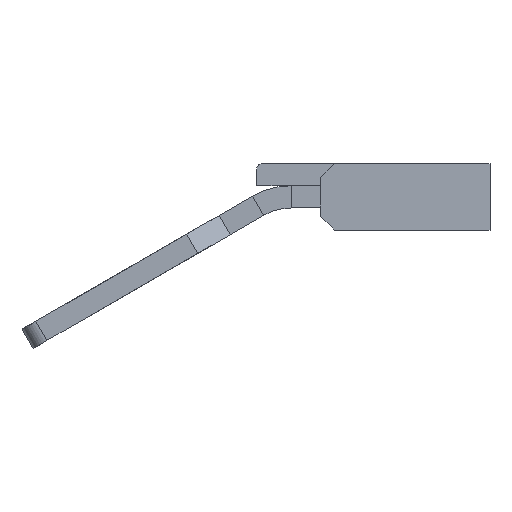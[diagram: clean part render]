
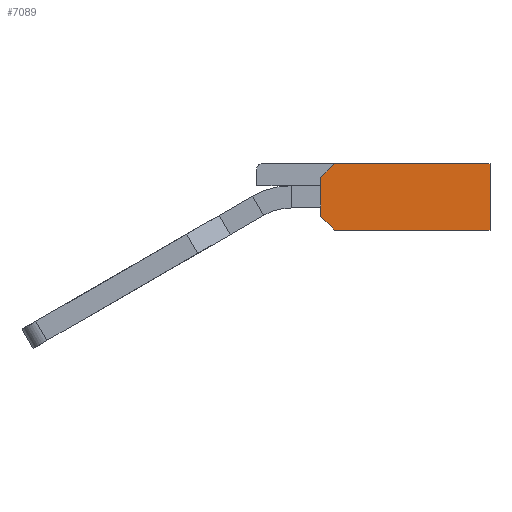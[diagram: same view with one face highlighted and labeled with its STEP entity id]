
A CAD part, front view. The second image highlights one B-rep face of the part: STEP entity #7089.
In plain terms, the highlighted planar face has unit normal (0, -1, 0).
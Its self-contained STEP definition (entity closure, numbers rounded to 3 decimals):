
#278 = ORIENTED_EDGE ( 'NONE', *, *, #2961, .F. ) ;
#288 = CARTESIAN_POINT ( 'NONE',  ( 7.9, -1., 0.8 ) ) ;
#433 = CARTESIAN_POINT ( 'NONE',  ( 7.9, -1., -1.6 ) ) ;
#707 = VERTEX_POINT ( 'NONE', #2453 ) ;
#1439 = LINE ( 'NONE', #8867, #6674 ) ;
#1503 = FACE_OUTER_BOUND ( 'NONE', #9850, .T. ) ;
#1933 = VERTEX_POINT ( 'NONE', #6585 ) ;
#2099 = VECTOR ( 'NONE', #3910, 1000. ) ;
#2148 = VERTEX_POINT ( 'NONE', #4121 ) ;
#2192 = EDGE_CURVE ( 'NONE', #10789, #707, #13820, .T. ) ;
#2453 = CARTESIAN_POINT ( 'NONE',  ( 1.8, -1., 0.3 ) ) ;
#2961 = EDGE_CURVE ( 'NONE', #707, #9040, #1439, .T. ) ;
#3098 = ORIENTED_EDGE ( 'NONE', *, *, #6460, .F. ) ;
#3226 = VECTOR ( 'NONE', #6965, 1000. ) ;
#3270 = EDGE_CURVE ( 'NONE', #2148, #10789, #5089, .T. ) ;
#3297 = AXIS2_PLACEMENT_3D ( 'NONE', #9966, #4403, #12198 ) ;
#3910 = DIRECTION ( 'NONE',  ( -0.707, 0., 0.707 ) ) ;
#4065 = CARTESIAN_POINT ( 'NONE',  ( 2.3, -1., -1.6 ) ) ;
#4121 = CARTESIAN_POINT ( 'NONE',  ( 2.3, -1., -1.6 ) ) ;
#4292 = LINE ( 'NONE', #5996, #9537 ) ;
#4403 = DIRECTION ( 'NONE',  ( 0., 1., 0. ) ) ;
#4673 = VECTOR ( 'NONE', #5300, 1000. ) ;
#5089 = LINE ( 'NONE', #4065, #2099 ) ;
#5300 = DIRECTION ( 'NONE',  ( -1., 0., 0. ) ) ;
#5362 = LINE ( 'NONE', #7611, #4673 ) ;
#5845 = LINE ( 'NONE', #288, #3226 ) ;
#5996 = CARTESIAN_POINT ( 'NONE',  ( 2.3, -1., 0.8 ) ) ;
#6460 = EDGE_CURVE ( 'NONE', #10744, #2148, #5362, .T. ) ;
#6585 = CARTESIAN_POINT ( 'NONE',  ( 7.9, -1., 0.8 ) ) ;
#6674 = VECTOR ( 'NONE', #8823, 1000. ) ;
#6864 = ORIENTED_EDGE ( 'NONE', *, *, #2192, .F. ) ;
#6965 = DIRECTION ( 'NONE',  ( 0., 0., -1. ) ) ;
#7089 = ADVANCED_FACE ( 'NONE', ( #1503 ), #11077, .F. ) ;
#7128 = DIRECTION ( 'NONE',  ( 1., 0., 0. ) ) ;
#7161 = CARTESIAN_POINT ( 'NONE',  ( 2.3, -1., 0.8 ) ) ;
#7357 = EDGE_CURVE ( 'NONE', #9040, #1933, #4292, .T. ) ;
#7611 = CARTESIAN_POINT ( 'NONE',  ( 7.9, -1., -1.6 ) ) ;
#7880 = EDGE_CURVE ( 'NONE', #1933, #10744, #5845, .T. ) ;
#7893 = ORIENTED_EDGE ( 'NONE', *, *, #3270, .F. ) ;
#8625 = CARTESIAN_POINT ( 'NONE',  ( 1.8, -1., -1.1 ) ) ;
#8823 = DIRECTION ( 'NONE',  ( 0.707, 0., 0.707 ) ) ;
#8867 = CARTESIAN_POINT ( 'NONE',  ( 1.8, -1., 0.3 ) ) ;
#9040 = VERTEX_POINT ( 'NONE', #7161 ) ;
#9537 = VECTOR ( 'NONE', #7128, 1000. ) ;
#9850 = EDGE_LOOP ( 'NONE', ( #13396, #11889, #278, #6864, #7893, #3098 ) ) ;
#9966 = CARTESIAN_POINT ( 'NONE',  ( 0., -1., 0. ) ) ;
#10744 = VERTEX_POINT ( 'NONE', #433 ) ;
#10789 = VERTEX_POINT ( 'NONE', #11684 ) ;
#10883 = VECTOR ( 'NONE', #11707, 1000. ) ;
#11077 = PLANE ( 'NONE',  #3297 ) ;
#11684 = CARTESIAN_POINT ( 'NONE',  ( 1.8, -1., -1.1 ) ) ;
#11707 = DIRECTION ( 'NONE',  ( 0., 0., 1. ) ) ;
#11889 = ORIENTED_EDGE ( 'NONE', *, *, #7357, .F. ) ;
#12198 = DIRECTION ( 'NONE',  ( 0., 0., 1. ) ) ;
#13396 = ORIENTED_EDGE ( 'NONE', *, *, #7880, .F. ) ;
#13820 = LINE ( 'NONE', #8625, #10883 ) ;
